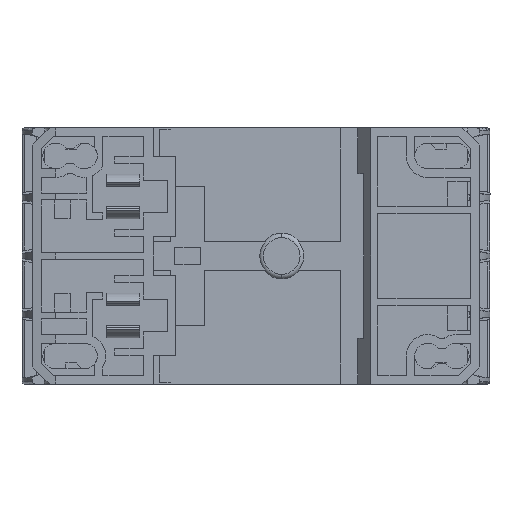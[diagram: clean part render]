
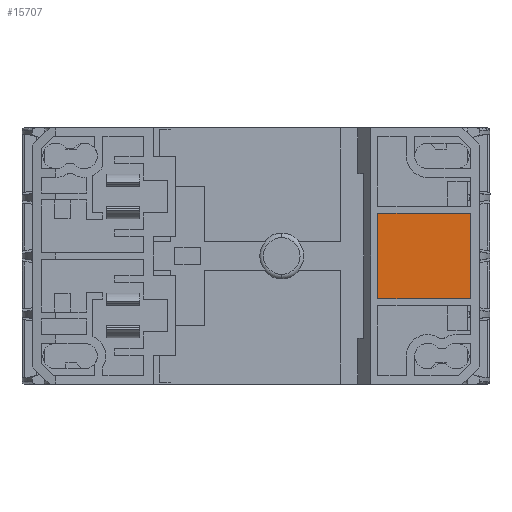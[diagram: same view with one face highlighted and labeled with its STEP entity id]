
A CAD part, front view. The second image highlights one B-rep face of the part: STEP entity #15707.
In plain terms, the highlighted planar face has unit normal (0, -1, 0).
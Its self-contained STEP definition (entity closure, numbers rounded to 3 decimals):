
#6423 = CARTESIAN_POINT ( 'NONE',  ( -52.825, -85.631, 70.365 ) ) ;
#7453 = EDGE_CURVE ( 'NONE', #14859, #117889, #46586, .T. ) ;
#8072 = VERTEX_POINT ( 'NONE', #176641 ) ;
#12377 = DIRECTION ( 'NONE',  ( -1., 0., 0. ) ) ;
#14859 = VERTEX_POINT ( 'NONE', #72497 ) ;
#15707 = ADVANCED_FACE ( 'NONE', ( #69736 ), #49346, .F. ) ;
#20205 = LINE ( 'NONE', #40991, #129051 ) ;
#30267 = ORIENTED_EDGE ( 'NONE', *, *, #102389, .T. ) ;
#30596 = CARTESIAN_POINT ( 'NONE',  ( -70.525, -85.631, 40.465 ) ) ;
#36437 = AXIS2_PLACEMENT_3D ( 'NONE', #6423, #148658, #63671 ) ;
#40838 = LINE ( 'NONE', #173260, #45322 ) ;
#40991 = CARTESIAN_POINT ( 'NONE',  ( -70.525, -85.631, 40.465 ) ) ;
#42119 = VECTOR ( 'NONE', #78429, 1000. ) ;
#45322 = VECTOR ( 'NONE', #59735, 1000. ) ;
#46586 = LINE ( 'NONE', #78571, #42119 ) ;
#49346 = PLANE ( 'NONE',  #36437 ) ;
#51954 = DIRECTION ( 'NONE',  ( 0., 0., -1. ) ) ;
#53850 = EDGE_LOOP ( 'NONE', ( #180257, #117406, #30267, #183752 ) ) ;
#59735 = DIRECTION ( 'NONE',  ( 0., 0., 1. ) ) ;
#63671 = DIRECTION ( 'NONE',  ( 0., 0., 1. ) ) ;
#69736 = FACE_OUTER_BOUND ( 'NONE', #53850, .T. ) ;
#72497 = CARTESIAN_POINT ( 'NONE',  ( -70.525, -85.631, 55.465 ) ) ;
#78429 = DIRECTION ( 'NONE',  ( 1., 0., 0. ) ) ;
#78571 = CARTESIAN_POINT ( 'NONE',  ( -70.525, -85.631, 55.465 ) ) ;
#80536 = CARTESIAN_POINT ( 'NONE',  ( -70.525, -85.631, 27.065 ) ) ;
#96931 = EDGE_CURVE ( 'NONE', #14859, #125947, #110029, .T. ) ;
#102389 = EDGE_CURVE ( 'NONE', #8072, #117889, #40838, .T. ) ;
#110029 = LINE ( 'NONE', #80536, #134369 ) ;
#117406 = ORIENTED_EDGE ( 'NONE', *, *, #171597, .F. ) ;
#117889 = VERTEX_POINT ( 'NONE', #135791 ) ;
#125947 = VERTEX_POINT ( 'NONE', #30596 ) ;
#129051 = VECTOR ( 'NONE', #12377, 1000. ) ;
#134369 = VECTOR ( 'NONE', #51954, 1000. ) ;
#135791 = CARTESIAN_POINT ( 'NONE',  ( -54.325, -85.631, 55.465 ) ) ;
#148658 = DIRECTION ( 'NONE',  ( 0., 1., 0. ) ) ;
#171597 = EDGE_CURVE ( 'NONE', #8072, #125947, #20205, .T. ) ;
#173260 = CARTESIAN_POINT ( 'NONE',  ( -54.325, -85.631, 66.744 ) ) ;
#176641 = CARTESIAN_POINT ( 'NONE',  ( -54.325, -85.631, 40.465 ) ) ;
#180257 = ORIENTED_EDGE ( 'NONE', *, *, #96931, .T. ) ;
#183752 = ORIENTED_EDGE ( 'NONE', *, *, #7453, .F. ) ;
